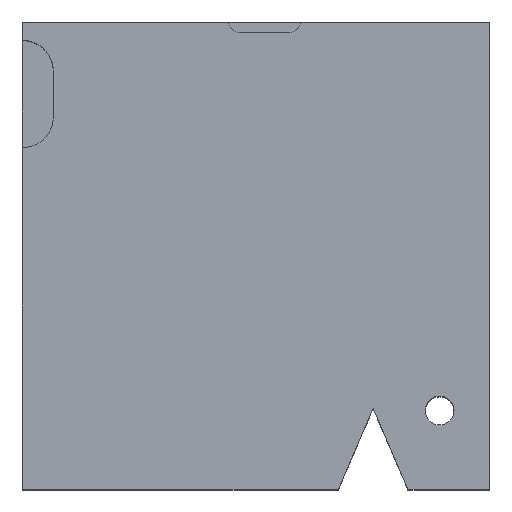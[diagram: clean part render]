
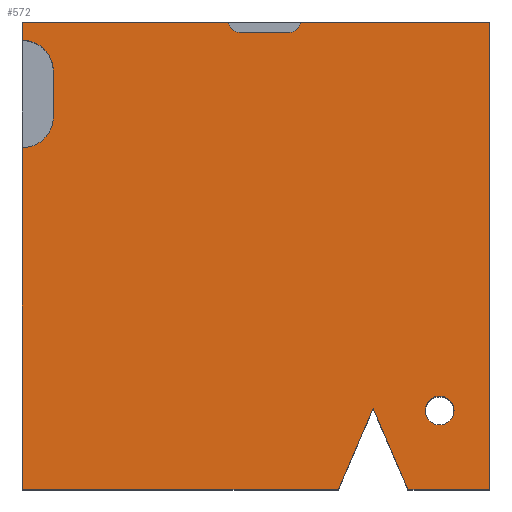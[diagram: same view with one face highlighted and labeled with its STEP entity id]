
A CAD part, top view. The second image highlights one B-rep face of the part: STEP entity #572.
In plain terms, the highlighted planar face has unit normal (0, 0, 1).
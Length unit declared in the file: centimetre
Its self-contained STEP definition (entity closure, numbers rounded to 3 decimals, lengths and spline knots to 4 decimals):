
#6 = CARTESIAN_POINT ( 'NONE',  ( 66.2665, 894.899, 1000. ) ) ;
#38 = ORIENTED_EDGE ( 'NONE', *, *, #694, .T. ) ;
#46 = ORIENTED_EDGE ( 'NONE', *, *, #883, .T. ) ;
#47 = VECTOR ( 'NONE', #684, 100. ) ;
#53 = EDGE_LOOP ( 'NONE', ( #457, #38, #127, #1004, #1088, #841, #46, #919, #708, #840, #791, #480, #96, #82, #383 ) ) ;
#82 = ORIENTED_EDGE ( 'NONE', *, *, #1274, .F. ) ;
#85 = LINE ( 'NONE', #493, #431 ) ;
#86 = CARTESIAN_POINT ( 'NONE',  ( 0., 0., 1000. ) ) ;
#96 = ORIENTED_EDGE ( 'NONE', *, *, #1198, .T. ) ;
#104 = DIRECTION ( 'NONE',  ( 0., -1., 0. ) ) ;
#122 = CARTESIAN_POINT ( 'NONE',  ( 0., 1000., 1000. ) ) ;
#123 = CARTESIAN_POINT ( 'NONE',  ( 594.7017, 1000., 1000. ) ) ;
#127 = ORIENTED_EDGE ( 'NONE', *, *, #923, .T. ) ;
#132 = EDGE_CURVE ( 'NONE', #746, #1068, #639, .T. ) ;
#144 = VERTEX_POINT ( 'NONE', #6 ) ;
#228 = VECTOR ( 'NONE', #104, 100. ) ;
#233 = EDGE_CURVE ( 'NONE', #636, #284, #538, .T. ) ;
#265 = ORIENTED_EDGE ( 'NONE', *, *, #1244, .F. ) ;
#268 = CARTESIAN_POINT ( 'NONE',  ( 676.1677, 0., 1000. ) ) ;
#274 = DIRECTION ( 'NONE',  ( 1., 0., 0. ) ) ;
#284 = VERTEX_POINT ( 'NONE', #1320 ) ;
#286 = EDGE_LOOP ( 'NONE', ( #265, #350 ) ) ;
#302 = VERTEX_POINT ( 'NONE', #504 ) ;
#318 = DIRECTION ( 'NONE',  ( 1., 0., 0. ) ) ;
#345 = DIRECTION ( 'NONE',  ( 0., -1., 0. ) ) ;
#346 = LINE ( 'NONE', #761, #580 ) ;
#347 = CARTESIAN_POINT ( 'NONE',  ( 0., 797.1687, 1000. ) ) ;
#350 = ORIENTED_EDGE ( 'NONE', *, *, #984, .F. ) ;
#351 = CARTESIAN_POINT ( 'NONE',  ( 572.5151, 977.8135, 1000. ) ) ;
#354 = EDGE_CURVE ( 'NONE', #284, #144, #1146, .T. ) ;
#357 = FACE_BOUND ( 'NONE', #286, .T. ) ;
#371 = PLANE ( 'NONE',  #609 ) ;
#381 = AXIS2_PLACEMENT_3D ( 'NONE', #1301, #768, #590 ) ;
#383 = ORIENTED_EDGE ( 'NONE', *, *, #132, .F. ) ;
#388 = VERTEX_POINT ( 'NONE', #908 ) ;
#396 = LINE ( 'NONE', #813, #1169 ) ;
#400 = EDGE_CURVE ( 'NONE', #858, #478, #396, .T. ) ;
#418 = EDGE_CURVE ( 'NONE', #302, #686, #346, .T. ) ;
#431 = VECTOR ( 'NONE', #1007, 100. ) ;
#447 = AXIS2_PLACEMENT_3D ( 'NONE', #1185, #1085, #1245 ) ;
#449 = DIRECTION ( 'NONE',  ( 1., 0., 0. ) ) ;
#450 = EDGE_CURVE ( 'NONE', #848, #1232, #952, .T. ) ;
#457 = ORIENTED_EDGE ( 'NONE', *, *, #1148, .F. ) ;
#461 = CARTESIAN_POINT ( 'NONE',  ( 0., 0., 1000. ) ) ;
#464 = VERTEX_POINT ( 'NONE', #123 ) ;
#467 = DIRECTION ( 'NONE',  ( 0., 0., 1. ) ) ;
#471 = DIRECTION ( 'NONE',  ( 1., 0., 0. ) ) ;
#478 = VERTEX_POINT ( 'NONE', #1160 ) ;
#479 = CIRCLE ( 'NONE', #815, 30.8153 ) ;
#480 = ORIENTED_EDGE ( 'NONE', *, *, #400, .T. ) ;
#492 = VECTOR ( 'NONE', #749, 100. ) ;
#493 = CARTESIAN_POINT ( 'NONE',  ( 0., 1000., 1000. ) ) ;
#504 = CARTESIAN_POINT ( 'NONE',  ( 825.1818, 0., 1000. ) ) ;
#517 = CARTESIAN_POINT ( 'NONE',  ( 0., 1000., 1000. ) ) ;
#526 = CARTESIAN_POINT ( 'NONE',  ( 463.7044, 977.8135, 1000. ) ) ;
#529 = CARTESIAN_POINT ( 'NONE',  ( 441.5178, 1000., 1000. ) ) ;
#538 = CIRCLE ( 'NONE', #1210, 66.2665 ) ;
#572 = ADVANCED_FACE ( 'NONE', ( #976, #357 ), #371, .T. ) ;
#575 = CARTESIAN_POINT ( 'NONE',  ( 0., 0., 1000. ) ) ;
#580 = VECTOR ( 'NONE', #644, 100. ) ;
#583 = CARTESIAN_POINT ( 'NONE',  ( 463.7044, 1000., 1000. ) ) ;
#590 = DIRECTION ( 'NONE',  ( -1., 0., 0. ) ) ;
#609 = AXIS2_PLACEMENT_3D ( 'NONE', #575, #775, #471 ) ;
#618 = LINE ( 'NONE', #1036, #228 ) ;
#626 = DIRECTION ( 'NONE',  ( 0., 1., 0. ) ) ;
#636 = VERTEX_POINT ( 'NONE', #982 ) ;
#637 = DIRECTION ( 'NONE',  ( 1., 0., 0. ) ) ;
#639 = LINE ( 'NONE', #526, #648 ) ;
#644 = DIRECTION ( 'NONE',  ( -0.394, 0.919, 0. ) ) ;
#648 = VECTOR ( 'NONE', #318, 100. ) ;
#662 = EDGE_CURVE ( 'NONE', #686, #1232, #786, .T. ) ;
#679 = LINE ( 'NONE', #776, #823 ) ;
#682 = AXIS2_PLACEMENT_3D ( 'NONE', #583, #1008, #274 ) ;
#684 = DIRECTION ( 'NONE',  ( -0.394, -0.919, 0. ) ) ;
#686 = VERTEX_POINT ( 'NONE', #915 ) ;
#690 = CARTESIAN_POINT ( 'NONE',  ( 0., 961.1656, 1000. ) ) ;
#694 = EDGE_CURVE ( 'NONE', #978, #890, #85, .T. ) ;
#708 = ORIENTED_EDGE ( 'NONE', *, *, #662, .F. ) ;
#718 = VERTEX_POINT ( 'NONE', #1021 ) ;
#735 = VECTOR ( 'NONE', #626, 100. ) ;
#742 = LINE ( 'NONE', #122, #992 ) ;
#746 = VERTEX_POINT ( 'NONE', #1335 ) ;
#749 = DIRECTION ( 'NONE',  ( 1., 0., 0. ) ) ;
#752 = AXIS2_PLACEMENT_3D ( 'NONE', #1308, #467, #1111 ) ;
#761 = CARTESIAN_POINT ( 'NONE',  ( 750.6748, 173.8787, 1000. ) ) ;
#768 = DIRECTION ( 'NONE',  ( 0., 0., 1. ) ) ;
#775 = DIRECTION ( 'NONE',  ( 0., 0., 1. ) ) ;
#776 = CARTESIAN_POINT ( 'NONE',  ( 0., 1000., 1000. ) ) ;
#786 = LINE ( 'NONE', #268, #47 ) ;
#790 = CIRCLE ( 'NONE', #682, 22.1865 ) ;
#791 = ORIENTED_EDGE ( 'NONE', *, *, #1167, .T. ) ;
#813 = CARTESIAN_POINT ( 'NONE',  ( 1000., 1000., 1000. ) ) ;
#815 = AXIS2_PLACEMENT_3D ( 'NONE', #1057, #849, #637 ) ;
#823 = VECTOR ( 'NONE', #899, 100. ) ;
#840 = ORIENTED_EDGE ( 'NONE', *, *, #418, .F. ) ;
#841 = ORIENTED_EDGE ( 'NONE', *, *, #233, .F. ) ;
#847 = CIRCLE ( 'NONE', #447, 22.1865 ) ;
#848 = VERTEX_POINT ( 'NONE', #86 ) ;
#849 = DIRECTION ( 'NONE',  ( 0., 0., 1. ) ) ;
#858 = VERTEX_POINT ( 'NONE', #1234 ) ;
#883 = EDGE_CURVE ( 'NONE', #636, #848, #618, .T. ) ;
#890 = VERTEX_POINT ( 'NONE', #517 ) ;
#899 = DIRECTION ( 'NONE',  ( -1., 0., 0. ) ) ;
#908 = CARTESIAN_POINT ( 'NONE',  ( 923.8946, 168.6107, 1000. ) ) ;
#915 = CARTESIAN_POINT ( 'NONE',  ( 750.6748, 173.8787, 1000. ) ) ;
#919 = ORIENTED_EDGE ( 'NONE', *, *, #450, .T. ) ;
#923 = EDGE_CURVE ( 'NONE', #890, #1206, #742, .T. ) ;
#936 = CIRCLE ( 'NONE', #381, 66.2665 ) ;
#952 = LINE ( 'NONE', #971, #492 ) ;
#971 = CARTESIAN_POINT ( 'NONE',  ( 0., 0., 1000. ) ) ;
#976 = FACE_OUTER_BOUND ( 'NONE', #53, .T. ) ;
#978 = VERTEX_POINT ( 'NONE', #529 ) ;
#982 = CARTESIAN_POINT ( 'NONE',  ( 0., 730.9021, 1000. ) ) ;
#984 = EDGE_CURVE ( 'NONE', #718, #388, #479, .T. ) ;
#992 = VECTOR ( 'NONE', #345, 100. ) ;
#996 = LINE ( 'NONE', #461, #1296 ) ;
#1004 = ORIENTED_EDGE ( 'NONE', *, *, #1258, .F. ) ;
#1007 = DIRECTION ( 'NONE',  ( -1., 0., 0. ) ) ;
#1008 = DIRECTION ( 'NONE',  ( 0., 0., 1. ) ) ;
#1021 = CARTESIAN_POINT ( 'NONE',  ( 862.2641, 168.6107, 1000. ) ) ;
#1036 = CARTESIAN_POINT ( 'NONE',  ( 0., 1000., 1000. ) ) ;
#1057 = CARTESIAN_POINT ( 'NONE',  ( 893.0793, 168.6107, 1000. ) ) ;
#1068 = VERTEX_POINT ( 'NONE', #351 ) ;
#1085 = DIRECTION ( 'NONE',  ( 0., 0., 1. ) ) ;
#1088 = ORIENTED_EDGE ( 'NONE', *, *, #354, .F. ) ;
#1092 = CARTESIAN_POINT ( 'NONE',  ( 676.1677, 0., 1000. ) ) ;
#1111 = DIRECTION ( 'NONE',  ( 1., 0., 0. ) ) ;
#1127 = CARTESIAN_POINT ( 'NONE',  ( 66.2665, 894.899, 1000. ) ) ;
#1146 = LINE ( 'NONE', #1127, #735 ) ;
#1148 = EDGE_CURVE ( 'NONE', #978, #746, #790, .T. ) ;
#1160 = CARTESIAN_POINT ( 'NONE',  ( 1000., 1000., 1000. ) ) ;
#1167 = EDGE_CURVE ( 'NONE', #302, #858, #996, .T. ) ;
#1169 = VECTOR ( 'NONE', #1280, 100. ) ;
#1172 = DIRECTION ( 'NONE',  ( 0., 0., 1. ) ) ;
#1185 = CARTESIAN_POINT ( 'NONE',  ( 572.5151, 1000., 1000. ) ) ;
#1197 = DIRECTION ( 'NONE',  ( 1., 0., 0. ) ) ;
#1198 = EDGE_CURVE ( 'NONE', #478, #464, #679, .T. ) ;
#1206 = VERTEX_POINT ( 'NONE', #690 ) ;
#1210 = AXIS2_PLACEMENT_3D ( 'NONE', #347, #1172, #449 ) ;
#1232 = VERTEX_POINT ( 'NONE', #1092 ) ;
#1234 = CARTESIAN_POINT ( 'NONE',  ( 1000., 0., 1000. ) ) ;
#1244 = EDGE_CURVE ( 'NONE', #388, #718, #1343, .T. ) ;
#1245 = DIRECTION ( 'NONE',  ( 1., 0., 0. ) ) ;
#1258 = EDGE_CURVE ( 'NONE', #144, #1206, #936, .T. ) ;
#1274 = EDGE_CURVE ( 'NONE', #1068, #464, #847, .T. ) ;
#1280 = DIRECTION ( 'NONE',  ( 0., 1., 0. ) ) ;
#1296 = VECTOR ( 'NONE', #1197, 100. ) ;
#1301 = CARTESIAN_POINT ( 'NONE',  ( 0., 894.899, 1000. ) ) ;
#1308 = CARTESIAN_POINT ( 'NONE',  ( 893.0793, 168.6107, 1000. ) ) ;
#1320 = CARTESIAN_POINT ( 'NONE',  ( 66.2665, 797.1687, 1000. ) ) ;
#1335 = CARTESIAN_POINT ( 'NONE',  ( 463.7044, 977.8135, 1000. ) ) ;
#1343 = CIRCLE ( 'NONE', #752, 30.8153 ) ;
